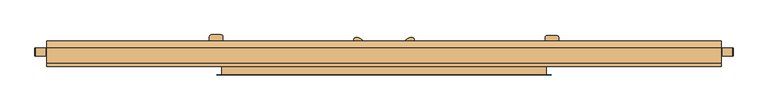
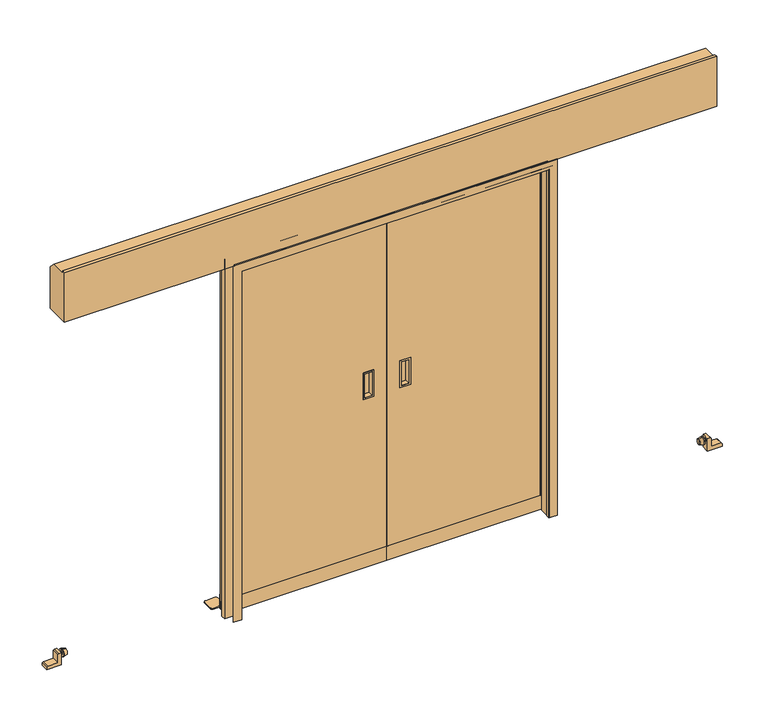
"""IFC4 building model written with IfcOpenShell, lengths in millimetres: door geometry, 冷蔵_両引きスライドドア_手動 : W1671xH2000xt50."""

from ifc_helpers import new_model, si_unit, point, frame, frame_2d, origin, origin_with_axes, place, context, project, spatial, polyline, circle_curve, trimmed, segment, composite_curve, outline, extrude, faceted_brep, source, transform, mapped, element, save
from ifc_brep_helpers import plane_surface, cylinder_surface, revolved_surface, advanced_brep


def door_920d7e31(model_context):
    return source(origin(), model_context, "Body", "SolidModel", [
        faceted_brep([(0.0, 108.5, 2040.0), (0.0, 64.5, 2040.0), (875.5, 64.5, 2040.0), (875.5, 108.5, 2040.0), (875.5, 64.5, 43.0), (830.5, 64.5, 43.0), (830.5, 58.5, 43.0), (0.0, 58.5, 43.0), (0.0, 108.5, 43.0), (875.5, 108.5, 43.0), (0.0, 64.5, 1995.0), (830.5, 64.5, 1995.0), (0.0, 58.5, 1995.0), (830.5, 58.5, 1995.0), (119.499965, 58.5, 1111.0), (119.499965, 58.5, 975.0), (79.499965, 58.5, 975.0), (79.499965, 58.5, 1111.0), (119.499965, 86.5, 1111.0), (79.499965, 86.5, 1111.0), (119.499965, 86.5, 975.0), (79.499965, 86.5, 975.0)], [[[0, 1, 2, 3]], [[4, 5, 6, 7, 8, 9]], [[3, 9, 8, 0]], [[2, 4, 9, 3]], [[1, 10, 11, 5, 4, 2]], [[0, 8, 7, 12, 10, 1]], [[11, 10, 12, 13]], [[13, 6, 5, 11]], [[12, 7, 6, 13], [14, 15, 16, 17]], [[18, 14, 17, 19]], [[18, 20, 15, 14]], [[20, 21, 16, 15]], [[17, 16, 21, 19]], [[19, 21, 20, 18]]]),
        extrude(outline(polyline([(1120.0, 70.499965), (966.0, 70.499965), (966.0, 128.499965), (1120.0, 128.499965), (1120.0, 70.499965)]), holes=[polyline([(975.0, 79.499965), (1111.0, 79.499965), (1111.0, 119.499965), (975.0, 119.499965), (975.0, 79.499965)])]), frame((0.0, 56.499995, 0.0), z_axis=(0.0, 1.0, 0.0), x_axis=(0.0, 0.0, 1.0)), (0.0, 0.0, 1.0), 2.000005),
        extrude(outline(polyline([(865.9985861, 49.0), (838.0014439, 49.0), (838.0014439, 64.5), (865.9985861, 64.5), (865.9985861, 49.0)])), frame((0.0, 0.0, 80.0000152), z_axis=(0.0, 0.0, 1.0), x_axis=(1.0, 0.0, 0.0)), (0.0, 0.0, 1.0), 1914.9999848),
        extrude(outline(polyline([(0.0, 64.5), (865.9985861, 64.5), (865.9985861, 49.0), (0.0, 49.0), (0.0, 64.5)])), frame((0.0, 0.0, 2002.5014439), z_axis=(0.0, 0.0, 1.0), x_axis=(1.0, 0.0, 0.0)), (0.0, 0.0, 1.0), 27.9971423),
        extrude(outline(polyline([(110.0, 80.0000152), (110.0, 4.5e-06), (100.0, 4.5e-06), (100.0, 43.0000033), (108.5, 42.9999967), (108.5, 80.0000152), (110.0, 80.0000152)])), frame((0.0, 0.0, 0.0), z_axis=(1.0, 0.0, 0.0), x_axis=(0.0, 1.0, 0.0)), (0.0, 0.0, 1.0), 875.5),
        extrude(outline(polyline([(57.0, 80.0000152), (58.5, 80.0000152), (58.5, 42.9999967), (67.0, 43.0000033), (67.0, 4.5e-06), (57.0, 4.5e-06), (57.0, 80.0000152)])), frame((0.0, 0.0, 0.0), z_axis=(1.0, 0.0, 0.0), x_axis=(0.0, 1.0, 0.0)), (0.0, 0.0, 1.0), 875.5),
        faceted_brep([(0.0, 108.5, 2040.0), (-875.5, 108.5, 2040.0), (-875.5, 64.5, 2040.0), (0.0, 64.5, 2040.0), (-875.5, 64.5, 43.0), (-875.5, 108.5, 43.0), (0.0, 108.5, 43.0), (0.0, 58.5, 43.0), (-830.5, 58.5, 43.0), (-830.5, 64.5, 43.0), (-830.5, 64.5, 1995.0), (0.0, 64.5, 1995.0), (0.0, 58.5, 1995.0), (-830.5, 58.5, 1995.0), (-119.499965, 58.5, 1111.0), (-79.499965, 58.5, 1111.0), (-79.499965, 58.5, 975.0), (-119.499965, 58.5, 975.0), (-119.499965, 86.5, 1111.0), (-79.499965, 86.5, 1111.0), (-119.499965, 86.5, 975.0), (-79.499965, 86.5, 975.0)], [[[0, 1, 2, 3]], [[4, 5, 6, 7, 8, 9]], [[1, 0, 6, 5]], [[2, 1, 5, 4]], [[3, 2, 4, 9, 10, 11]], [[0, 3, 11, 12, 7, 6]], [[10, 13, 12, 11]], [[13, 10, 9, 8]], [[12, 13, 8, 7], [14, 15, 16, 17]], [[18, 19, 15, 14]], [[18, 14, 17, 20]], [[20, 17, 16, 21]], [[15, 19, 21, 16]], [[19, 18, 20, 21]]]),
        extrude(outline(polyline([(1120.0, -70.499965), (1120.0, -128.499965), (966.0, -128.499965), (966.0, -70.499965), (1120.0, -70.499965)]), holes=[polyline([(975.0, -79.499965), (975.0, -119.499965), (1111.0, -119.499965), (1111.0, -79.499965), (975.0, -79.499965)])]), frame((0.0, 56.499995, 0.0), z_axis=(0.0, 1.0, 0.0), x_axis=(0.0, 0.0, 1.0)), (0.0, 0.0, 1.0), 2.000005),
        extrude(outline(polyline([(-865.9985861, 49.0), (-865.9985861, 64.5), (-838.0014439, 64.5), (-838.0014439, 49.0), (-865.9985861, 49.0)])), frame((0.0, 0.0, 80.0000152), z_axis=(0.0, 0.0, 1.0), x_axis=(1.0, 0.0, 0.0)), (0.0, 0.0, 1.0), 1914.9999848),
        extrude(outline(polyline([(0.0, 64.5), (0.0, 49.0), (-865.9985861, 49.0), (-865.9985861, 64.5), (0.0, 64.5)])), frame((0.0, 0.0, 2002.5014439), z_axis=(0.0, 0.0, 1.0), x_axis=(1.0, 0.0, 0.0)), (0.0, 0.0, 1.0), 27.9971423),
        extrude(outline(polyline([(110.0, 80.0000152), (110.0, 4.5e-06), (100.0, 4.5e-06), (100.0, 43.0000033), (108.5, 42.9999967), (108.5, 80.0000152), (110.0, 80.0000152)])), frame((-875.5, 0.0, 0.0), z_axis=(1.0, 0.0, 0.0), x_axis=(0.0, 1.0, 0.0)), (0.0, 0.0, 1.0), 875.5),
        extrude(outline(polyline([(57.0, 80.0000152), (58.5, 80.0000152), (58.5, 42.9999967), (67.0, 43.0000033), (67.0, 4.5e-06), (57.0, 4.5e-06), (57.0, 80.0000152)])), frame((-875.5, 0.0, 0.0), z_axis=(1.0, 0.0, 0.0), x_axis=(0.0, 1.0, 0.0)), (0.0, 0.0, 1.0), 875.5),
        extrude(outline(composite_curve([segment(trimmed(circle_curve(frame_2d((856.5036558, 176.0045151)), 10.0), [point((846.5036558, 176.0045151))], [point((856.5036558, 186.0045151))], False, "CARTESIAN"), True, "CONTINUOUS"), segment(polyline([(856.5036558, 186.0045151), (907.5044508, 186.0045151)]), True, "CONTINUOUS"), segment(trimmed(circle_curve(frame_2d((907.5044508, 176.0045151)), 10.0), [point((907.5044508, 186.0045151))], [point((917.5044508, 176.0045151))], False, "CARTESIAN"), True, "CONTINUOUS"), segment(polyline([(917.5044508, 176.0045151), (917.5044508, 125.0045151)]), True, "CONTINUOUS"), segment(trimmed(circle_curve(frame_2d((907.5044508, 125.0045151)), 10.0), [point((917.5044508, 125.0045151))], [point((907.5044508, 115.0045151))], False, "CARTESIAN"), True, "CONTINUOUS"), segment(polyline([(907.5044508, 115.0045151), (856.5036558, 115.0045151)]), True, "CONTINUOUS"), segment(trimmed(circle_curve(frame_2d((856.5036558, 125.0045151)), 10.0), [point((856.5036558, 115.0045151))], [point((846.5036558, 125.0045151))], False, "CARTESIAN"), True, "CONTINUOUS"), segment(polyline([(846.5036558, 125.0045151), (846.5036558, 176.0045151)]), True, "CONTINUOUS")], self_intersect=False)), origin_with_axes(), (0.0, 0.0, 1.0), 6.0),
        advanced_brep(
        [(1741.999995, 100.0, 32.99147), (1741.999995, 100.0, 72.98458), (1741.999995, 100.0, 60.988025), (1741.999995, 100.0, 44.988025), (1737.999995, 100.0, 32.99147), (1737.999995, 100.0, 72.98458), (1717.999995, 100.0, 37.9914727), (1717.999995, 100.0, 67.9845773), (1717.999995, 100.0, 52.988025), (1753.99999, 100.0, 44.988025), (1753.99999, 100.0, 60.988025), (1753.99999, 100.0, 52.988025)],
        [
            (0, 1, circle_curve(frame((1741.999995, 100.0, 52.988025), z_axis=(1.0, 0.0, 0.0), x_axis=(0.0, 0.0, 1.0)), 19.996555)),
            (1, 2),
            (2, 3, circle_curve(frame((1741.999995, 100.0, 52.988025), z_axis=(-1.0, 0.0, 0.0), x_axis=(0.0, 0.0, 1.0)), 8.0)),
            (3, 0),
            (1, 0, circle_curve(frame((1741.999995, 100.0, 52.988025), z_axis=(1.0, 0.0, 0.0), x_axis=(0.0, 0.0, 1.0)), 19.996555)),
            (3, 2, circle_curve(frame((1741.999995, 100.0, 52.988025), z_axis=(-1.0, 0.0, 0.0), x_axis=(0.0, 0.0, 1.0)), 8.0)),
            (4, 5, circle_curve(frame((1737.999995, 100.0, 52.988025), z_axis=(1.0, 0.0, 0.0), x_axis=(0.0, 0.0, 1.0)), 19.996555)),
            (5, 1),
            (0, 4),
            (5, 4, circle_curve(frame((1737.999995, 100.0, 52.988025), z_axis=(1.0, 0.0, 0.0), x_axis=(0.0, 0.0, 1.0)), 19.996555)),
            (6, 7, circle_curve(frame((1717.999995, 100.0, 52.988025), z_axis=(1.0, 0.0, 0.0), x_axis=(0.0, 0.0, 1.0)), 14.9965523)),
            (7, 5),
            (4, 6),
            (7, 6, circle_curve(frame((1717.999995, 100.0, 52.988025), z_axis=(1.0, 0.0, 0.0), x_axis=(0.0, 0.0, 1.0)), 14.9965523)),
            (8, 7),
            (6, 8),
            (9, 10, circle_curve(frame((1753.99999, 100.0, 52.988025), z_axis=(1.0, 0.0, 0.0), x_axis=(0.0, 0.0, 1.0)), 8.0)),
            (10, 11),
            (11, 9),
            (10, 9, circle_curve(frame((1753.99999, 100.0, 52.988025), z_axis=(1.0, 0.0, 0.0), x_axis=(0.0, 0.0, 1.0)), 8.0)),
            (2, 10),
            (9, 3),
        ],
        [
            plane_surface(frame((1741.999995, 100.0, 52.988025), z_axis=(1.0, 0.0, 0.0), x_axis=(0.0, 0.0, 1.0))),
            cylinder_surface(frame((1717.999995, 100.0, 52.988025), z_axis=(-1.0, 0.0, 0.0), x_axis=(0.0, 0.0, 1.0)), 19.996555),
            revolved_surface(polyline([(1737.999995, 100.0, 72.98458), (1717.999995, 100.0, 67.9845773)]), (1717.999995, 100.0, 52.988025), (-1.0, 0.0, 0.0)),
            plane_surface(frame((1717.999995, 100.0, 52.988025), z_axis=(-1.0, 0.0, 0.0), x_axis=(0.0, 0.0, 1.0))),
            plane_surface(frame((1753.99999, 100.0, 52.988025), z_axis=(1.0, 0.0, 0.0), x_axis=(0.0, 0.0, 1.0))),
            cylinder_surface(frame((1717.999995, 100.0, 52.988025), z_axis=(-1.0, 0.0, 0.0), x_axis=(0.0, 0.0, 1.0)), 8.0),
        ],
        [
            (0, [[1, 2, 3, 4]]),
            (0, [[5, -4, 6, -2]]),
            (1, [[7, 8, -1, 9]]),
            (1, [[10, -9, -5, -8]]),
            (2, [[11, 12, -7, 13]]),
            (2, [[14, -13, -10, -12]]),
            (3, [[15, -11, 16]]),
            (3, [[-16, -14, -15]]),
            (4, [[17, 18, 19]]),
            (4, [[20, -19, -18]]),
            (5, [[-3, 21, -17, 22]]),
            (5, [[-6, -22, -20, -21]]),
        ],
    ),
        extrude(outline(polyline([(0.000626, 1753.99999), (-0.00939, 1834.0), (14.99265, 1834.0), (19.99311, 1828.99999), (19.99062, 1774.0), (64.99725, 1774.0), (69.99771, 1768.99999), (69.99063, 1753.99999), (0.000626, 1753.99999)])), frame((0.0, 79.0, 0.0), z_axis=(0.0, 1.0, 0.0), x_axis=(0.0, 0.0, 1.0)), (0.0, 0.0, 1.0), 42.00225),
        advanced_brep(
        [(-1742.0, 100.0, 32.99147), (-1742.0, 100.0, 72.98458), (-1742.0, 100.0, 60.988025), (-1742.0, 100.0, 44.988025), (-1738.0, 100.0, 32.99147), (-1738.0, 100.0, 72.98458), (-1718.0, 100.0, 37.9914727), (-1718.0, 100.0, 67.9845773), (-1718.0, 100.0, 52.988025), (-1753.999995, 100.0, 44.988025), (-1753.999995, 100.0, 60.988025), (-1753.999995, 100.0, 52.988025)],
        [
            (0, 1, circle_curve(frame((-1742.0, 100.0, 52.988025), z_axis=(-1.0, 0.0, 0.0), x_axis=(0.0, 0.0, 1.0)), 19.996555)),
            (1, 2),
            (2, 3, circle_curve(frame((-1742.0, 100.0, 52.988025), z_axis=(1.0, 0.0, 0.0), x_axis=(0.0, 0.0, 1.0)), 8.0)),
            (3, 0),
            (1, 0, circle_curve(frame((-1742.0, 100.0, 52.988025), z_axis=(-1.0, 0.0, 0.0), x_axis=(0.0, 0.0, 1.0)), 19.996555)),
            (3, 2, circle_curve(frame((-1742.0, 100.0, 52.988025), z_axis=(1.0, 0.0, 0.0), x_axis=(0.0, 0.0, 1.0)), 8.0)),
            (4, 5, circle_curve(frame((-1738.0, 100.0, 52.988025), z_axis=(-1.0, 0.0, 0.0), x_axis=(0.0, 0.0, 1.0)), 19.996555)),
            (5, 1),
            (0, 4),
            (5, 4, circle_curve(frame((-1738.0, 100.0, 52.988025), z_axis=(-1.0, 0.0, 0.0), x_axis=(0.0, 0.0, 1.0)), 19.996555)),
            (6, 7, circle_curve(frame((-1718.0, 100.0, 52.988025), z_axis=(-1.0, 0.0, 0.0), x_axis=(0.0, 0.0, 1.0)), 14.9965523)),
            (7, 5),
            (4, 6),
            (7, 6, circle_curve(frame((-1718.0, 100.0, 52.988025), z_axis=(-1.0, 0.0, 0.0), x_axis=(0.0, 0.0, 1.0)), 14.9965523)),
            (8, 7),
            (6, 8),
            (9, 10, circle_curve(frame((-1753.999995, 100.0, 52.988025), z_axis=(-1.0, 0.0, 0.0), x_axis=(0.0, 0.0, 1.0)), 8.0)),
            (10, 11),
            (11, 9),
            (10, 9, circle_curve(frame((-1753.999995, 100.0, 52.988025), z_axis=(-1.0, 0.0, 0.0), x_axis=(0.0, 0.0, 1.0)), 8.0)),
            (2, 10),
            (9, 3),
        ],
        [
            plane_surface(frame((-1742.0, 100.0, 52.988025), z_axis=(-1.0, 0.0, 0.0), x_axis=(0.0, 0.0, 1.0))),
            cylinder_surface(frame((-1718.0, 100.0, 52.988025), z_axis=(1.0, 0.0, 0.0), x_axis=(0.0, 0.0, 1.0)), 19.996555),
            revolved_surface(polyline([(-1738.0, 100.0, 72.98458), (-1718.0, 100.0, 67.9845773)]), (-1718.0, 100.0, 52.988025), (1.0, 0.0, 0.0)),
            plane_surface(frame((-1718.0, 100.0, 52.988025), z_axis=(1.0, 0.0, 0.0), x_axis=(0.0, 0.0, 1.0))),
            plane_surface(frame((-1753.999995, 100.0, 52.988025), z_axis=(-1.0, 0.0, 0.0), x_axis=(0.0, 0.0, 1.0))),
            cylinder_surface(frame((-1718.0, 100.0, 52.988025), z_axis=(1.0, 0.0, 0.0), x_axis=(0.0, 0.0, 1.0)), 8.0),
        ],
        [
            (0, [[1, 2, 3, 4]]),
            (0, [[5, -4, 6, -2]]),
            (1, [[7, 8, -1, 9]]),
            (1, [[10, -9, -5, -8]]),
            (2, [[11, 12, -7, 13]]),
            (2, [[14, -13, -10, -12]]),
            (3, [[15, -11, 16]]),
            (3, [[-16, -14, -15]]),
            (4, [[17, 18, 19]]),
            (4, [[20, -19, -18]]),
            (5, [[-3, 21, -17, 22]]),
            (5, [[-6, -22, -20, -21]]),
        ],
    ),
        extrude(outline(polyline([(0.000626, -1753.999995), (69.99063, -1753.999995), (69.99771, -1768.999995), (64.99725, -1774.000005), (19.99062, -1774.000005), (19.99311, -1828.999995), (14.99265, -1834.000005), (-0.00939, -1834.000005), (0.000626, -1753.999995)])), frame((0.0, 78.99775, 0.0), z_axis=(0.0, 1.0, 0.0), x_axis=(0.0, 0.0, 1.0)), (0.0, 0.0, 1.0), 42.00225),
        extrude(outline(composite_curve([segment(polyline([(-846.5036558, 180.0045151), (-846.5036558, 129.0045151)]), True, "CONTINUOUS"), segment(trimmed(circle_curve(frame_2d((-856.5036558, 129.0045151)), 10.0), [point((-846.5036558, 129.0045151))], [point((-856.5036558, 119.0045151))], False, "CARTESIAN"), True, "CONTINUOUS"), segment(polyline([(-856.5036558, 119.0045151), (-907.5044508, 119.0045151)]), True, "CONTINUOUS"), segment(trimmed(circle_curve(frame_2d((-907.5044508, 129.0045151)), 10.0), [point((-907.5044508, 119.0045151))], [point((-917.5044508, 129.0045151))], False, "CARTESIAN"), True, "CONTINUOUS"), segment(polyline([(-917.5044508, 129.0045151), (-917.5044508, 180.0045151)]), True, "CONTINUOUS"), segment(trimmed(circle_curve(frame_2d((-907.5044508, 180.0045151)), 10.0), [point((-917.5044508, 180.0045151))], [point((-907.5044508, 190.0045151))], False, "CARTESIAN"), True, "CONTINUOUS"), segment(polyline([(-907.5044508, 190.0045151), (-856.5036558, 190.0045151)]), True, "CONTINUOUS"), segment(trimmed(circle_curve(frame_2d((-856.5036558, 180.0045151)), 10.0), [point((-856.5036558, 190.0045151))], [point((-846.5036558, 180.0045151))], False, "CARTESIAN"), True, "CONTINUOUS")], self_intersect=False)), origin_with_axes(), (0.0, 0.0, 1.0), 6.0),
        extrude(outline(polyline([(155.499875, 2246.500125), (155.499875, 2008.5), (22.0, 2008.5), (22.0, 2293.5), (38.499875, 2293.5), (38.499875, 2278.49995), (123.50005, 2278.49995), (155.499875, 2246.500125)])), frame((-1771.0, 0.0, 0.0), z_axis=(1.0, 0.0, 0.0), x_axis=(0.0, 1.0, 0.0)), (0.0, 0.0, 1.0), 3542.0),
        faceted_brep([(-835.5, -22.0, 0.0), (-851.50103, -22.0, 0.0), (-851.50103, 22.0, 0.0), (-900.5, 22.0, 0.0), (-900.5, 49.0, 0.0), (-835.5, 49.0, 0.0), (-835.5, -22.0, 2000.0), (835.5, -22.0, 2000.0), (835.5, -22.0, 0.0), (851.50103, -22.0, 0.0), (851.50103, -22.0, 2016.00103), (-851.50103, -22.0, 2016.00103), (-851.50103, 22.0, 2016.00103), (851.50103, 22.0, 2016.00103), (851.50103, 22.0, 0.0), (900.5, 22.0, 0.0), (900.5, 22.0, 2065.0), (-900.5, 22.0, 2065.0), (-900.5, 49.0, 2065.0), (900.5, 49.0, 2065.0), (900.5, 49.0, 0.0), (835.5, 49.0, 0.0), (835.5, 49.0, 2000.0), (-835.5, 49.0, 2000.0)], [[[0, 1, 2, 3, 4, 5]], [[1, 0, 6, 7, 8, 9, 10, 11]], [[2, 1, 11, 12]], [[3, 2, 12, 13, 14, 15, 16, 17]], [[4, 3, 17, 18]], [[5, 4, 18, 19, 20, 21, 22, 23]], [[0, 5, 23, 6]], [[7, 22, 21, 8]], [[8, 21, 20, 15, 14, 9]], [[13, 10, 9, 14]], [[19, 16, 15, 20]], [[12, 11, 10, 13]], [[18, 17, 16, 19]], [[6, 23, 22, 7]]]),
        faceted_brep([(-879.5, -23.2, 0.0), (-879.5, -22.0, 0.0), (-835.5, -22.0, 0.0), (-835.5, -1.2, 0.0), (-834.3, -1.2, 0.0), (-834.3, -23.2, 0.0), (-879.5, -23.2, 2044.0), (-879.5, -22.0, 2044.0), (879.5, -22.0, 2044.0), (879.5, -22.0, 0.0), (835.5, -22.0, 0.0), (835.5, -22.0, 2000.0), (-835.5, -22.0, 2000.0), (-835.5, -1.2, 2000.0), (835.5, -1.2, 2000.0), (835.5, -1.2, 0.0), (834.3, -1.2, 0.0), (834.3, -1.2, 1998.8), (-834.3, -1.2, 1998.8), (-834.3, -23.2, 1998.8), (834.3, -23.2, 1998.8), (834.3, -23.2, 0.0), (879.5, -23.2, 0.0), (879.5, -23.2, 2044.0)], [[[0, 1, 2, 3, 4, 5]], [[1, 0, 6, 7]], [[2, 1, 7, 8, 9, 10, 11, 12]], [[3, 2, 12, 13]], [[4, 3, 13, 14, 15, 16, 17, 18]], [[5, 4, 18, 19]], [[0, 5, 19, 20, 21, 22, 23, 6]], [[8, 23, 22, 9]], [[22, 21, 16, 15, 10, 9]], [[14, 11, 10, 15]], [[20, 17, 16, 21]], [[7, 6, 23, 8]], [[13, 12, 11, 14]], [[19, 18, 17, 20]]]),
        advanced_brep(
        [(134.7032987, 173.3571276, 850.0), (138.8239291, 174.499985, 850.0), (149.4294791, 174.499985, 850.0), (153.5501092, 173.3571279, 850.0), (153.5501098, 153.6428421, 850.0), (149.4294791, 152.499985, 850.0), (138.8239291, 152.499985, 850.0), (134.7032991, 153.6428421, 850.0), (134.7032987, 173.3571276, 1350.0), (138.8239291, 174.499985, 1350.0), (149.4294791, 174.499985, 1350.0), (153.5501092, 173.3571279, 1350.0), (153.5501098, 153.6428421, 1350.0), (149.4294791, 152.499985, 1350.0), (138.8239291, 152.499985, 1350.0), (134.7032991, 153.6428421, 1350.0)],
        [
            (0, 1, circle_curve(frame((138.8239291, 166.499985, 850.0), z_axis=(0.0, 0.0, -1.0), x_axis=(0.0, -1.0, 0.0)), 8.0)),
            (1, 2),
            (2, 3, circle_curve(frame((149.4294791, 166.499985, 850.0), z_axis=(0.0, 0.0, -1.0), x_axis=(0.0, -1.0, 0.0)), 8.0)),
            (3, 4, circle_curve(frame((147.6267041, 163.499985, 850.0), z_axis=(0.0, 0.0, -1.0), x_axis=(0.0, -1.0, 0.0)), 11.5)),
            (4, 5, circle_curve(frame((149.4294791, 160.499985, 850.0), z_axis=(0.0, 0.0, -1.0), x_axis=(0.0, -1.0, 0.0)), 8.0)),
            (5, 6),
            (6, 7, circle_curve(frame((138.8239291, 160.499985, 850.0), z_axis=(0.0, 0.0, -1.0), x_axis=(0.0, -1.0, 0.0)), 8.0)),
            (7, 0, circle_curve(frame((140.6267041, 163.499985, 850.0), z_axis=(0.0, 0.0, -1.0), x_axis=(0.0, -1.0, 0.0)), 11.5)),
            (8, 9, circle_curve(frame((138.8239291, 166.499985, 1350.0), z_axis=(0.0, 0.0, -1.0), x_axis=(0.0, -1.0, 0.0)), 8.0)),
            (9, 1),
            (0, 8),
            (9, 10),
            (10, 2),
            (10, 11, circle_curve(frame((149.4294791, 166.499985, 1350.0), z_axis=(0.0, 0.0, -1.0), x_axis=(0.0, -1.0, 0.0)), 8.0)),
            (11, 3),
            (11, 12, circle_curve(frame((147.6267041, 163.499985, 1350.0), z_axis=(0.0, 0.0, -1.0), x_axis=(0.0, -1.0, 0.0)), 11.5)),
            (12, 4),
            (12, 13, circle_curve(frame((149.4294791, 160.499985, 1350.0), z_axis=(0.0, 0.0, -1.0), x_axis=(0.0, -1.0, 0.0)), 8.0)),
            (13, 5),
            (13, 14),
            (14, 6),
            (14, 15, circle_curve(frame((138.8239291, 160.499985, 1350.0), z_axis=(0.0, 0.0, -1.0), x_axis=(0.0, -1.0, 0.0)), 8.0)),
            (15, 7),
            (15, 8, circle_curve(frame((140.6267041, 163.499985, 1350.0), z_axis=(0.0, 0.0, -1.0), x_axis=(0.0, -1.0, 0.0)), 11.5)),
        ],
        [
            plane_surface(frame((140.6267041, 151.999985, 850.0), z_axis=(0.0, 0.0, -1.0), x_axis=(-1.0, 0.0, 0.0))),
            cylinder_surface(frame((138.8239291, 166.499985, 850.0), z_axis=(0.0, 0.0, 1.0), x_axis=(0.0, -1.0, 0.0)), 8.0),
            plane_surface(frame((149.4294791, 174.499985, 1350.0), z_axis=(0.0, 1.0, 0.0), x_axis=(0.0, 0.0, -1.0))),
            cylinder_surface(frame((149.4294791, 166.499985, 850.0), z_axis=(0.0, 0.0, 1.0), x_axis=(0.0, -1.0, 0.0)), 8.0),
            cylinder_surface(frame((147.6267041, 163.499985, 850.0), z_axis=(0.0, 0.0, 1.0), x_axis=(0.0, -1.0, 0.0)), 11.5),
            cylinder_surface(frame((149.4294791, 160.499985, 850.0), z_axis=(0.0, 0.0, 1.0), x_axis=(0.0, -1.0, 0.0)), 8.0),
            plane_surface(frame((138.8239291, 152.499985, 1350.0), z_axis=(0.0, -1.0, 0.0), x_axis=(0.0, 0.0, -1.0))),
            cylinder_surface(frame((138.8239291, 160.499985, 850.0), z_axis=(0.0, 0.0, 1.0), x_axis=(0.0, -1.0, 0.0)), 8.0),
            cylinder_surface(frame((140.6267041, 163.499985, 850.0), z_axis=(0.0, 0.0, 1.0), x_axis=(0.0, -1.0, 0.0)), 11.5),
            plane_surface(frame((140.6267041, 151.999985, 1350.0), z_axis=(0.0, 0.0, 1.0), x_axis=(1.0, 0.0, 0.0))),
        ],
        [
            (0, [[1, 2, 3, 4, 5, 6, 7, 8]]),
            (1, [[9, 10, -1, 11]]),
            (2, [[12, 13, -2, -10]]),
            (3, [[14, 15, -3, -13]]),
            (4, [[16, 17, -4, -15]]),
            (5, [[18, 19, -5, -17]]),
            (6, [[20, 21, -6, -19]]),
            (7, [[22, 23, -7, -21]]),
            (8, [[24, -11, -8, -23]]),
            (9, [[-24, -22, -20, -18, -16, -14, -12, -9]]),
        ],
    ),
        advanced_brep(
        [(-134.7032985, 173.3571279, 850.0), (-134.703299, 153.6428419, 850.0), (-138.8239291, 152.499985, 850.0), (-149.4294791, 152.499985, 850.0), (-153.5501096, 153.6428424, 850.0), (-153.5501093, 173.3571281, 850.0), (-149.4294791, 174.499985, 850.0), (-138.8239291, 174.499985, 850.0), (-134.7032985, 173.3571279, 1350.0), (-134.703299, 153.6428419, 1350.0), (-138.8239291, 152.499985, 1350.0), (-149.4294791, 152.499985, 1350.0), (-153.5501096, 153.6428424, 1350.0), (-153.5501093, 173.3571281, 1350.0), (-149.4294791, 174.499985, 1350.0), (-138.8239291, 174.499985, 1350.0)],
        [
            (0, 1, circle_curve(frame((-140.6267041, 163.499985, 850.0), z_axis=(0.0, 0.0, -1.0), x_axis=(0.0, -1.0, 0.0)), 11.5)),
            (1, 2, circle_curve(frame((-138.8239291, 160.499985, 850.0), z_axis=(0.0, 0.0, -1.0), x_axis=(0.0, -1.0, 0.0)), 8.0)),
            (2, 3),
            (3, 4, circle_curve(frame((-149.4294791, 160.499985, 850.0), z_axis=(0.0, 0.0, -1.0), x_axis=(0.0, -1.0, 0.0)), 8.0)),
            (4, 5, circle_curve(frame((-147.6267041, 163.499985, 850.0), z_axis=(0.0, 0.0, -1.0), x_axis=(0.0, -1.0, 0.0)), 11.5)),
            (5, 6, circle_curve(frame((-149.4294791, 166.499985, 850.0), z_axis=(0.0, 0.0, -1.0), x_axis=(0.0, -1.0, 0.0)), 8.0)),
            (6, 7),
            (7, 0, circle_curve(frame((-138.8239291, 166.499985, 850.0), z_axis=(0.0, 0.0, -1.0), x_axis=(0.0, -1.0, 0.0)), 8.0)),
            (8, 9, circle_curve(frame((-140.6267041, 163.499985, 1350.0), z_axis=(0.0, 0.0, -1.0), x_axis=(0.0, -1.0, 0.0)), 11.5)),
            (9, 1),
            (0, 8),
            (9, 10, circle_curve(frame((-138.8239291, 160.499985, 1350.0), z_axis=(0.0, 0.0, -1.0), x_axis=(0.0, -1.0, 0.0)), 8.0)),
            (10, 2),
            (10, 11),
            (11, 3),
            (11, 12, circle_curve(frame((-149.4294791, 160.499985, 1350.0), z_axis=(0.0, 0.0, -1.0), x_axis=(0.0, -1.0, 0.0)), 8.0)),
            (12, 4),
            (12, 13, circle_curve(frame((-147.6267041, 163.499985, 1350.0), z_axis=(0.0, 0.0, -1.0), x_axis=(0.0, -1.0, 0.0)), 11.5)),
            (13, 5),
            (13, 14, circle_curve(frame((-149.4294791, 166.499985, 1350.0), z_axis=(0.0, 0.0, -1.0), x_axis=(0.0, -1.0, 0.0)), 8.0)),
            (14, 6),
            (14, 15),
            (15, 7),
            (15, 8, circle_curve(frame((-138.8239291, 166.499985, 1350.0), z_axis=(0.0, 0.0, -1.0), x_axis=(0.0, -1.0, 0.0)), 8.0)),
        ],
        [
            plane_surface(frame((-138.8239291, 158.499985, 850.0), z_axis=(0.0, 0.0, -1.0), x_axis=(-1.0, 0.0, 0.0))),
            cylinder_surface(frame((-140.6267041, 163.499985, 850.0), z_axis=(0.0, 0.0, 1.0), x_axis=(0.0, -1.0, 0.0)), 11.5),
            cylinder_surface(frame((-138.8239291, 160.499985, 850.0), z_axis=(0.0, 0.0, 1.0), x_axis=(0.0, -1.0, 0.0)), 8.0),
            plane_surface(frame((-149.4294791, 152.499985, 1350.0), z_axis=(0.0, -1.0, 0.0), x_axis=(0.0, 0.0, -1.0))),
            cylinder_surface(frame((-149.4294791, 160.499985, 850.0), z_axis=(0.0, 0.0, 1.0), x_axis=(0.0, -1.0, 0.0)), 8.0),
            cylinder_surface(frame((-147.6267041, 163.499985, 850.0), z_axis=(0.0, 0.0, 1.0), x_axis=(0.0, -1.0, 0.0)), 11.5),
            cylinder_surface(frame((-149.4294791, 166.499985, 850.0), z_axis=(0.0, 0.0, 1.0), x_axis=(0.0, -1.0, 0.0)), 8.0),
            plane_surface(frame((-138.8239291, 174.499985, 1350.0), z_axis=(0.0, 1.0, 0.0), x_axis=(0.0, 0.0, -1.0))),
            cylinder_surface(frame((-138.8239291, 166.499985, 850.0), z_axis=(0.0, 0.0, 1.0), x_axis=(0.0, -1.0, 0.0)), 8.0),
            plane_surface(frame((-138.8239291, 158.499985, 1350.0), z_axis=(0.0, 0.0, 1.0), x_axis=(1.0, 0.0, 0.0))),
        ],
        [
            (0, [[1, 2, 3, 4, 5, 6, 7, 8]]),
            (1, [[9, 10, -1, 11]]),
            (2, [[12, 13, -2, -10]]),
            (3, [[14, 15, -3, -13]]),
            (4, [[16, 17, -4, -15]]),
            (5, [[18, 19, -5, -17]]),
            (6, [[20, 21, -6, -19]]),
            (7, [[22, 23, -7, -21]]),
            (8, [[24, -11, -8, -23]]),
            (9, [[-24, -22, -20, -18, -16, -14, -12, -9]]),
        ],
    ),
        advanced_brep(
        [(149.4294791, 174.499985, 830.0), (153.5501092, 173.3571279, 830.0), (153.5501098, 153.6428421, 830.0), (149.4294791, 152.499985, 830.0), (145.3110659, 152.499985, 830.0), (134.7267041, 128.0779954, 830.0), (134.7267041, 108.5, 830.0), (91.9244023, 108.5, 830.0), (91.9244023, 120.5176673, 830.0), (93.3186358, 129.5570327, 830.0), (136.341566, 174.322439, 830.0), (137.3583028, 174.499985, 830.0), (149.4294791, 174.499985, 850.0), (137.3583028, 174.499985, 850.0), (136.341566, 174.322439, 850.0), (93.3186358, 129.5570327, 850.0), (91.9244023, 120.5176673, 850.0), (91.9244023, 108.5, 850.0), (134.7267041, 108.5, 850.0), (134.7267041, 128.0779954, 850.0), (145.3110659, 152.499985, 850.0), (149.4294791, 152.499985, 850.0), (153.5501096, 153.6428424, 850.0), (153.5501093, 173.3571281, 850.0)],
        [
            (0, 1, circle_curve(frame((149.4294791, 166.499985, 830.0), z_axis=(0.0, 0.0, -1.0), x_axis=(0.0, -1.0, 0.0)), 8.0)),
            (1, 2, circle_curve(frame((147.6267041, 163.499985, 830.0), z_axis=(0.0, 0.0, -1.0), x_axis=(0.0, -1.0, 0.0)), 11.5)),
            (2, 3, circle_curve(frame((149.4294791, 160.499985, 830.0), z_axis=(0.0, 0.0, -1.0), x_axis=(0.0, -1.0, 0.0)), 8.0)),
            (3, 4),
            (4, 5, circle_curve(frame((168.1941114, 128.0779954, 830.0), z_axis=(0.0, 0.0, 1.0), x_axis=(0.0, -1.0, 0.0)), 33.4674072)),
            (5, 6),
            (6, 7),
            (7, 8),
            (8, 9, circle_curve(frame((121.9244023, 120.5176673, 830.0), z_axis=(0.0, 0.0, -1.0), x_axis=(0.0, -1.0, 0.0)), 30.0)),
            (9, 10, circle_curve(frame((160.0654241, 108.46518, 830.0), z_axis=(0.0, 0.0, -1.0), x_axis=(0.0, -1.0, 0.0)), 70.0)),
            (10, 11, circle_curve(frame((137.3583028, 171.499985, 830.0), z_axis=(0.0, 0.0, -1.0), x_axis=(0.0, -1.0, 0.0)), 3.0)),
            (11, 0),
            (12, 13),
            (13, 14, circle_curve(frame((137.3583028, 171.499985, 850.0), z_axis=(0.0, 0.0, 1.0), x_axis=(0.0, -1.0, 0.0)), 3.0)),
            (14, 15, circle_curve(frame((160.0654241, 108.46518, 850.0), z_axis=(0.0, 0.0, 1.0), x_axis=(0.0, -1.0, 0.0)), 70.0)),
            (15, 16, circle_curve(frame((121.9244023, 120.5176673, 850.0), z_axis=(0.0, 0.0, 1.0), x_axis=(0.0, -1.0, 0.0)), 30.0)),
            (16, 17),
            (17, 18),
            (18, 19),
            (19, 20, circle_curve(frame((168.1941114, 128.0779954, 850.0), z_axis=(0.0, 0.0, -1.0), x_axis=(0.0, -1.0, 0.0)), 33.4674072)),
            (20, 21),
            (21, 22, circle_curve(frame((149.4294791, 160.499985, 850.0), z_axis=(0.0, 0.0, 1.0), x_axis=(0.0, -1.0, 0.0)), 8.0)),
            (22, 23, circle_curve(frame((147.6267041, 163.499985, 850.0), z_axis=(0.0, 0.0, 1.0), x_axis=(0.0, -1.0, 0.0)), 11.5)),
            (23, 12, circle_curve(frame((149.4294791, 166.499985, 850.0), z_axis=(0.0, 0.0, 1.0), x_axis=(0.0, -1.0, 0.0)), 8.0)),
            (12, 0),
            (11, 13),
            (23, 1),
            (22, 2),
            (21, 3),
            (20, 4),
            (18, 6),
            (5, 19),
            (17, 7),
            (16, 8),
            (15, 9),
            (14, 10),
        ],
        [
            plane_surface(frame((137.3583028, 174.499985, 830.0), z_axis=(0.0, 0.0, -1.0), x_axis=(1.0, 0.0, 0.0))),
            plane_surface(frame((137.3583028, 174.499985, 850.0), z_axis=(0.0, 0.0, 1.0), x_axis=(-1.0, 0.0, 0.0))),
            plane_surface(frame((149.4294791, 174.499985, 850.0), z_axis=(0.0, 1.0, 0.0), x_axis=(0.0, 0.0, -1.0))),
            cylinder_surface(frame((149.4294791, 166.499985, 830.0), z_axis=(0.0, 0.0, 1.0), x_axis=(0.0, -1.0, 0.0)), 8.0),
            cylinder_surface(frame((147.6267041, 163.499985, 830.0), z_axis=(0.0, 0.0, 1.0), x_axis=(0.0, -1.0, 0.0)), 11.5),
            cylinder_surface(frame((149.4294791, 160.499985, 830.0), z_axis=(0.0, 0.0, 1.0), x_axis=(0.0, -1.0, 0.0)), 8.0),
            plane_surface(frame((145.3110659, 152.499985, 850.0), z_axis=(0.0, -1.0, 0.0), x_axis=(0.0, 0.0, -1.0))),
            plane_surface(frame((134.7267041, 108.5, 850.0), z_axis=(1.0, 0.0, 0.0), x_axis=(0.0, 0.0, -1.0))),
            plane_surface(frame((91.9244023, 108.5, 850.0), z_axis=(0.0, -1.0, 0.0), x_axis=(0.0, 0.0, -1.0))),
            plane_surface(frame((91.9244023, 120.5176673, 850.0), z_axis=(-1.0, 0.0, 0.0), x_axis=(0.0, 0.0, -1.0))),
            cylinder_surface(frame((121.9244023, 120.5176673, 830.0), z_axis=(0.0, 0.0, 1.0), x_axis=(0.0, -1.0, 0.0)), 30.0),
            cylinder_surface(frame((160.0654241, 108.46518, 830.0), z_axis=(0.0, 0.0, 1.0), x_axis=(0.0, -1.0, 0.0)), 70.0),
            cylinder_surface(frame((137.3583028, 171.499985, 830.0), z_axis=(0.0, 0.0, 1.0), x_axis=(0.0, -1.0, 0.0)), 3.0),
            revolved_surface(polyline([(168.1941114, 94.6105882, 830.0), (168.1941114, 94.6105882, 850.0)]), (168.1941114, 128.0779954, 830.0), (0.0, 0.0, -1.0)),
        ],
        [
            (0, [[1, 2, 3, 4, 5, 6, 7, 8, 9, 10, 11, 12]]),
            (1, [[13, 14, 15, 16, 17, 18, 19, 20, 21, 22, 23, 24]]),
            (2, [[-13, 25, -12, 26]]),
            (3, [[-24, 27, -1, -25]]),
            (4, [[-23, 28, -2, -27]]),
            (5, [[-22, 29, -3, -28]]),
            (6, [[-21, 30, -4, -29]]),
            (7, [[-19, 31, -6, 32]]),
            (8, [[-18, 33, -7, -31]]),
            (9, [[-17, 34, -8, -33]]),
            (10, [[-16, 35, -9, -34]]),
            (11, [[-15, 36, -10, -35]]),
            (12, [[-14, -26, -11, -36]]),
            (13, [[-20, -32, -5, -30]]),
        ],
    ),
        advanced_brep(
        [(149.4294791, 174.499985, 1370.0), (137.3583028, 174.499985, 1370.0), (136.341566, 174.322439, 1370.0), (93.3186358, 129.5570327, 1370.0), (91.9244023, 120.5176673, 1370.0), (91.9244023, 108.5, 1370.0), (134.7267041, 108.5, 1370.0), (134.7267041, 128.0779954, 1370.0), (145.3110659, 152.499985, 1370.0), (149.4294791, 152.499985, 1370.0), (153.5501096, 153.6428424, 1370.0), (153.5501093, 173.3571281, 1370.0), (149.4294791, 174.499985, 1349.99999), (153.5501092, 173.3571279, 1349.99999), (153.5501098, 153.6428421, 1349.99999), (149.4294791, 152.499985, 1349.99999), (145.3110659, 152.499985, 1349.99999), (134.7267041, 128.0779954, 1349.99999), (134.7267041, 108.5, 1349.99999), (91.9244023, 108.5, 1349.99999), (91.9244023, 120.5176673, 1349.99999), (93.3186358, 129.5570327, 1349.99999), (136.341566, 174.322439, 1349.99999), (137.3583028, 174.499985, 1349.99999)],
        [
            (0, 1),
            (1, 2, circle_curve(frame((137.3583028, 171.499985, 1370.0), z_axis=(0.0, 0.0, 1.0), x_axis=(0.0, -1.0, 0.0)), 3.0)),
            (2, 3, circle_curve(frame((160.0654241, 108.46518, 1370.0), z_axis=(0.0, 0.0, 1.0), x_axis=(0.0, -1.0, 0.0)), 70.0)),
            (3, 4, circle_curve(frame((121.9244023, 120.5176673, 1370.0), z_axis=(0.0, 0.0, 1.0), x_axis=(0.0, -1.0, 0.0)), 30.0)),
            (4, 5),
            (5, 6),
            (6, 7),
            (7, 8, circle_curve(frame((168.1941114, 128.0779954, 1370.0), z_axis=(0.0, 0.0, -1.0), x_axis=(0.0, -1.0, 0.0)), 33.4674072)),
            (8, 9),
            (9, 10, circle_curve(frame((149.4294791, 160.499985, 1370.0), z_axis=(0.0, 0.0, 1.0), x_axis=(0.0, -1.0, 0.0)), 8.0)),
            (10, 11, circle_curve(frame((147.6267041, 163.499985, 1370.0), z_axis=(0.0, 0.0, 1.0), x_axis=(0.0, -1.0, 0.0)), 11.5)),
            (11, 0, circle_curve(frame((149.4294791, 166.499985, 1370.0), z_axis=(0.0, 0.0, 1.0), x_axis=(0.0, -1.0, 0.0)), 8.0)),
            (12, 13, circle_curve(frame((149.4294791, 166.499985, 1349.99999), z_axis=(0.0, 0.0, -1.0), x_axis=(0.0, -1.0, 0.0)), 8.0)),
            (13, 14, circle_curve(frame((147.6267041, 163.499985, 1349.99999), z_axis=(0.0, 0.0, -1.0), x_axis=(0.0, -1.0, 0.0)), 11.5)),
            (14, 15, circle_curve(frame((149.4294791, 160.499985, 1349.99999), z_axis=(0.0, 0.0, -1.0), x_axis=(0.0, -1.0, 0.0)), 8.0)),
            (15, 16),
            (16, 17, circle_curve(frame((168.1941114, 128.0779954, 1349.99999), z_axis=(0.0, 0.0, 1.0), x_axis=(0.0, -1.0, 0.0)), 33.4674072)),
            (17, 18),
            (18, 19),
            (19, 20),
            (20, 21, circle_curve(frame((121.9244023, 120.5176673, 1349.99999), z_axis=(0.0, 0.0, -1.0), x_axis=(0.0, -1.0, 0.0)), 30.0)),
            (21, 22, circle_curve(frame((160.0654241, 108.46518, 1349.99999), z_axis=(0.0, 0.0, -1.0), x_axis=(0.0, -1.0, 0.0)), 70.0)),
            (22, 23, circle_curve(frame((137.3583028, 171.499985, 1349.99999), z_axis=(0.0, 0.0, -1.0), x_axis=(0.0, -1.0, 0.0)), 3.0)),
            (23, 12),
            (0, 12),
            (23, 1),
            (11, 13),
            (10, 14),
            (9, 15),
            (8, 16),
            (6, 18),
            (17, 7),
            (5, 19),
            (4, 20),
            (3, 21),
            (2, 22),
        ],
        [
            plane_surface(frame((137.3583028, 174.499985, 1370.0), z_axis=(0.0, 0.0, 1.0), x_axis=(-1.0, 0.0, 0.0))),
            plane_surface(frame((137.3583028, 174.499985, 1349.99999), z_axis=(0.0, 0.0, -1.0), x_axis=(1.0, 0.0, 0.0))),
            plane_surface(frame((149.4294791, 174.499985, 1370.0), z_axis=(0.0, 1.0, 0.0), x_axis=(0.0, 0.0, -1.0))),
            cylinder_surface(frame((149.4294791, 166.499985, 1349.99999), z_axis=(0.0, 0.0, 1.0), x_axis=(0.0, -1.0, 0.0)), 8.0),
            cylinder_surface(frame((147.6267041, 163.499985, 1349.99999), z_axis=(0.0, 0.0, 1.0), x_axis=(0.0, -1.0, 0.0)), 11.5),
            cylinder_surface(frame((149.4294791, 160.499985, 1349.99999), z_axis=(0.0, 0.0, 1.0), x_axis=(0.0, -1.0, 0.0)), 8.0),
            plane_surface(frame((145.3110659, 152.499985, 1370.0), z_axis=(0.0, -1.0, 0.0), x_axis=(0.0, 0.0, -1.0))),
            plane_surface(frame((134.7267041, 108.5, 1370.0), z_axis=(1.0, 0.0, 0.0), x_axis=(0.0, 0.0, -1.0))),
            plane_surface(frame((91.9244023, 108.5, 1370.0), z_axis=(0.0, -1.0, 0.0), x_axis=(0.0, 0.0, -1.0))),
            plane_surface(frame((91.9244023, 120.5176673, 1370.0), z_axis=(-1.0, 0.0, 0.0), x_axis=(0.0, 0.0, -1.0))),
            cylinder_surface(frame((121.9244023, 120.5176673, 1349.99999), z_axis=(0.0, 0.0, 1.0), x_axis=(0.0, -1.0, 0.0)), 30.0),
            cylinder_surface(frame((160.0654241, 108.46518, 1349.99999), z_axis=(0.0, 0.0, 1.0), x_axis=(0.0, -1.0, 0.0)), 70.0),
            cylinder_surface(frame((137.3583028, 171.499985, 1349.99999), z_axis=(0.0, 0.0, 1.0), x_axis=(0.0, -1.0, 0.0)), 3.0),
            revolved_surface(polyline([(168.1941114, 94.6105882, 1349.99999), (168.1941114, 94.6105882, 1370.0)]), (168.1941114, 128.0779954, 1349.99999), (0.0, 0.0, -1.0)),
        ],
        [
            (0, [[1, 2, 3, 4, 5, 6, 7, 8, 9, 10, 11, 12]]),
            (1, [[13, 14, 15, 16, 17, 18, 19, 20, 21, 22, 23, 24]]),
            (2, [[-1, 25, -24, 26]]),
            (3, [[-12, 27, -13, -25]]),
            (4, [[-11, 28, -14, -27]]),
            (5, [[-10, 29, -15, -28]]),
            (6, [[-9, 30, -16, -29]]),
            (7, [[-7, 31, -18, 32]]),
            (8, [[-6, 33, -19, -31]]),
            (9, [[-5, 34, -20, -33]]),
            (10, [[-4, 35, -21, -34]]),
            (11, [[-3, 36, -22, -35]]),
            (12, [[-2, -26, -23, -36]]),
            (13, [[-8, -32, -17, -30]]),
        ],
    ),
        advanced_brep(
        [(-149.4294791, 174.499985, 830.0), (-137.3583028, 174.499985, 830.0), (-136.341566, 174.322439, 830.0), (-93.3186358, 129.5570327, 830.0), (-91.9244023, 120.5176673, 830.0), (-91.9244023, 108.5, 830.0), (-134.7267041, 108.5, 830.0), (-134.7267041, 128.0779954, 830.0), (-145.3110659, 152.499985, 830.0), (-149.4294791, 152.499985, 830.0), (-153.5501096, 153.6428424, 830.0), (-153.5501093, 173.3571281, 830.0), (-149.4294791, 174.499985, 850.0), (-153.5501092, 173.3571279, 850.0), (-153.5501098, 153.6428421, 850.0), (-149.4294791, 152.499985, 850.0), (-145.3110659, 152.499985, 850.0), (-134.7267041, 128.0779954, 850.0), (-134.7267041, 108.5, 850.0), (-91.9244023, 108.5, 850.0), (-91.9244023, 120.5176673, 850.0), (-93.3186358, 129.5570327, 850.0), (-136.341566, 174.322439, 850.0), (-137.3583028, 174.499985, 850.0)],
        [
            (0, 1),
            (1, 2, circle_curve(frame((-137.3583028, 171.499985, 830.0), z_axis=(0.0, 0.0, -1.0), x_axis=(0.0, -1.0, 0.0)), 3.0)),
            (2, 3, circle_curve(frame((-160.0654241, 108.46518, 830.0), z_axis=(0.0, 0.0, -1.0), x_axis=(0.0, -1.0, 0.0)), 70.0)),
            (3, 4, circle_curve(frame((-121.9244023, 120.5176673, 830.0), z_axis=(0.0, 0.0, -1.0), x_axis=(0.0, -1.0, 0.0)), 30.0)),
            (4, 5),
            (5, 6),
            (6, 7),
            (7, 8, circle_curve(frame((-168.1941114, 128.0779954, 830.0), z_axis=(0.0, 0.0, 1.0), x_axis=(0.0, -1.0, 0.0)), 33.4674072)),
            (8, 9),
            (9, 10, circle_curve(frame((-149.4294791, 160.499985, 830.0), z_axis=(0.0, 0.0, -1.0), x_axis=(0.0, -1.0, 0.0)), 8.0)),
            (10, 11, circle_curve(frame((-147.6267041, 163.499985, 830.0), z_axis=(0.0, 0.0, -1.0), x_axis=(0.0, -1.0, 0.0)), 11.5)),
            (11, 0, circle_curve(frame((-149.4294791, 166.499985, 830.0), z_axis=(0.0, 0.0, -1.0), x_axis=(0.0, -1.0, 0.0)), 8.0)),
            (12, 13, circle_curve(frame((-149.4294791, 166.499985, 850.0), z_axis=(0.0, 0.0, 1.0), x_axis=(0.0, -1.0, 0.0)), 8.0)),
            (13, 14, circle_curve(frame((-147.6267041, 163.499985, 850.0), z_axis=(0.0, 0.0, 1.0), x_axis=(0.0, -1.0, 0.0)), 11.5)),
            (14, 15, circle_curve(frame((-149.4294791, 160.499985, 850.0), z_axis=(0.0, 0.0, 1.0), x_axis=(0.0, -1.0, 0.0)), 8.0)),
            (15, 16),
            (16, 17, circle_curve(frame((-168.1941114, 128.0779954, 850.0), z_axis=(0.0, 0.0, -1.0), x_axis=(0.0, -1.0, 0.0)), 33.4674072)),
            (17, 18),
            (18, 19),
            (19, 20),
            (20, 21, circle_curve(frame((-121.9244023, 120.5176673, 850.0), z_axis=(0.0, 0.0, 1.0), x_axis=(0.0, -1.0, 0.0)), 30.0)),
            (21, 22, circle_curve(frame((-160.0654241, 108.46518, 850.0), z_axis=(0.0, 0.0, 1.0), x_axis=(0.0, -1.0, 0.0)), 70.0)),
            (22, 23, circle_curve(frame((-137.3583028, 171.499985, 850.0), z_axis=(0.0, 0.0, 1.0), x_axis=(0.0, -1.0, 0.0)), 3.0)),
            (23, 12),
            (23, 1),
            (0, 12),
            (11, 13),
            (10, 14),
            (9, 15),
            (8, 16),
            (17, 7),
            (6, 18),
            (5, 19),
            (4, 20),
            (3, 21),
            (2, 22),
        ],
        [
            plane_surface(frame((-149.4294791, 158.499985, 830.0), z_axis=(0.0, 0.0, -1.0), x_axis=(-1.0, 0.0, 0.0))),
            plane_surface(frame((-149.4294791, 158.499985, 850.0), z_axis=(0.0, 0.0, 1.0), x_axis=(1.0, 0.0, 0.0))),
            plane_surface(frame((-137.3583028, 174.499985, 850.0), z_axis=(0.0, 1.0, 0.0), x_axis=(0.0, 0.0, -1.0))),
            cylinder_surface(frame((-149.4294791, 166.499985, 830.0), z_axis=(0.0, 0.0, 1.0), x_axis=(0.0, -1.0, 0.0)), 8.0),
            cylinder_surface(frame((-147.6267041, 163.499985, 830.0), z_axis=(0.0, 0.0, 1.0), x_axis=(0.0, -1.0, 0.0)), 11.5),
            cylinder_surface(frame((-149.4294791, 160.499985, 830.0), z_axis=(0.0, 0.0, 1.0), x_axis=(0.0, -1.0, 0.0)), 8.0),
            plane_surface(frame((-149.4294791, 152.499985, 850.0), z_axis=(0.0, -1.0, 0.0), x_axis=(0.0, 0.0, -1.0))),
            plane_surface(frame((-134.7267041, 128.0779954, 850.0), z_axis=(-1.0, 0.0, 0.0), x_axis=(0.0, 0.0, -1.0))),
            plane_surface(frame((-134.7267041, 108.5, 850.0), z_axis=(0.0, -1.0, 0.0), x_axis=(0.0, 0.0, -1.0))),
            plane_surface(frame((-91.9244023, 108.5, 850.0), z_axis=(1.0, 0.0, 0.0), x_axis=(0.0, 0.0, -1.0))),
            cylinder_surface(frame((-121.9244023, 120.5176673, 830.0), z_axis=(0.0, 0.0, 1.0), x_axis=(0.0, -1.0, 0.0)), 30.0),
            cylinder_surface(frame((-160.0654241, 108.46518, 830.0), z_axis=(0.0, 0.0, 1.0), x_axis=(0.0, -1.0, 0.0)), 70.0),
            cylinder_surface(frame((-137.3583028, 171.499985, 830.0), z_axis=(0.0, 0.0, 1.0), x_axis=(0.0, -1.0, 0.0)), 3.0),
            revolved_surface(polyline([(-168.1941114, 94.6105882, 830.0), (-168.1941114, 94.6105882, 850.0)]), (-168.1941114, 128.0779954, 830.0), (0.0, 0.0, -1.0)),
        ],
        [
            (0, [[1, 2, 3, 4, 5, 6, 7, 8, 9, 10, 11, 12]]),
            (1, [[13, 14, 15, 16, 17, 18, 19, 20, 21, 22, 23, 24]]),
            (2, [[-24, 25, -1, 26]]),
            (3, [[-13, -26, -12, 27]]),
            (4, [[-14, -27, -11, 28]]),
            (5, [[-15, -28, -10, 29]]),
            (6, [[-16, -29, -9, 30]]),
            (7, [[-18, 31, -7, 32]]),
            (8, [[-19, -32, -6, 33]]),
            (9, [[-20, -33, -5, 34]]),
            (10, [[-21, -34, -4, 35]]),
            (11, [[-22, -35, -3, 36]]),
            (12, [[-23, -36, -2, -25]]),
            (13, [[-17, -30, -8, -31]]),
        ],
    ),
        advanced_brep(
        [(-149.4294791, 174.499985, 1370.0), (-153.5501092, 173.3571279, 1370.0), (-153.5501098, 153.6428421, 1370.0), (-149.4294791, 152.499985, 1370.0), (-145.3110659, 152.499985, 1370.0), (-134.7267041, 128.0779954, 1370.0), (-134.7267041, 108.5, 1370.0), (-91.9244023, 108.5, 1370.0), (-91.9244023, 120.5176673, 1370.0), (-93.3186358, 129.5570327, 1370.0), (-136.341566, 174.322439, 1370.0), (-137.3583028, 174.499985, 1370.0), (-149.4294791, 174.499985, 1349.99999), (-137.3583028, 174.499985, 1349.99999), (-136.341566, 174.322439, 1349.99999), (-93.3186358, 129.5570327, 1349.99999), (-91.9244023, 120.5176673, 1349.99999), (-91.9244023, 108.5, 1349.99999), (-134.7267041, 108.5, 1349.99999), (-134.7267041, 128.0779954, 1349.99999), (-145.3110659, 152.499985, 1349.99999), (-149.4294791, 152.499985, 1349.99999), (-153.5501096, 153.6428424, 1349.99999), (-153.5501093, 173.3571281, 1349.99999)],
        [
            (0, 1, circle_curve(frame((-149.4294791, 166.499985, 1370.0), z_axis=(0.0, 0.0, 1.0), x_axis=(0.0, -1.0, 0.0)), 8.0)),
            (1, 2, circle_curve(frame((-147.6267041, 163.499985, 1370.0), z_axis=(0.0, 0.0, 1.0), x_axis=(0.0, -1.0, 0.0)), 11.5)),
            (2, 3, circle_curve(frame((-149.4294791, 160.499985, 1370.0), z_axis=(0.0, 0.0, 1.0), x_axis=(0.0, -1.0, 0.0)), 8.0)),
            (3, 4),
            (4, 5, circle_curve(frame((-168.1941114, 128.0779954, 1370.0), z_axis=(0.0, 0.0, -1.0), x_axis=(0.0, -1.0, 0.0)), 33.4674072)),
            (5, 6),
            (6, 7),
            (7, 8),
            (8, 9, circle_curve(frame((-121.9244023, 120.5176673, 1370.0), z_axis=(0.0, 0.0, 1.0), x_axis=(0.0, -1.0, 0.0)), 30.0)),
            (9, 10, circle_curve(frame((-160.0654241, 108.46518, 1370.0), z_axis=(0.0, 0.0, 1.0), x_axis=(0.0, -1.0, 0.0)), 70.0)),
            (10, 11, circle_curve(frame((-137.3583028, 171.499985, 1370.0), z_axis=(0.0, 0.0, 1.0), x_axis=(0.0, -1.0, 0.0)), 3.0)),
            (11, 0),
            (12, 13),
            (13, 14, circle_curve(frame((-137.3583028, 171.499985, 1349.99999), z_axis=(0.0, 0.0, -1.0), x_axis=(0.0, -1.0, 0.0)), 3.0)),
            (14, 15, circle_curve(frame((-160.0654241, 108.46518, 1349.99999), z_axis=(0.0, 0.0, -1.0), x_axis=(0.0, -1.0, 0.0)), 70.0)),
            (15, 16, circle_curve(frame((-121.9244023, 120.5176673, 1349.99999), z_axis=(0.0, 0.0, -1.0), x_axis=(0.0, -1.0, 0.0)), 30.0)),
            (16, 17),
            (17, 18),
            (18, 19),
            (19, 20, circle_curve(frame((-168.1941114, 128.0779954, 1349.99999), z_axis=(0.0, 0.0, 1.0), x_axis=(0.0, -1.0, 0.0)), 33.4674072)),
            (20, 21),
            (21, 22, circle_curve(frame((-149.4294791, 160.499985, 1349.99999), z_axis=(0.0, 0.0, -1.0), x_axis=(0.0, -1.0, 0.0)), 8.0)),
            (22, 23, circle_curve(frame((-147.6267041, 163.499985, 1349.99999), z_axis=(0.0, 0.0, -1.0), x_axis=(0.0, -1.0, 0.0)), 11.5)),
            (23, 12, circle_curve(frame((-149.4294791, 166.499985, 1349.99999), z_axis=(0.0, 0.0, -1.0), x_axis=(0.0, -1.0, 0.0)), 8.0)),
            (11, 13),
            (12, 0),
            (23, 1),
            (22, 2),
            (21, 3),
            (20, 4),
            (5, 19),
            (18, 6),
            (17, 7),
            (16, 8),
            (15, 9),
            (14, 10),
        ],
        [
            plane_surface(frame((-149.4294791, 158.499985, 1370.0), z_axis=(0.0, 0.0, 1.0), x_axis=(1.0, 0.0, 0.0))),
            plane_surface(frame((-149.4294791, 158.499985, 1349.99999), z_axis=(0.0, 0.0, -1.0), x_axis=(-1.0, 0.0, 0.0))),
            plane_surface(frame((-137.3583028, 174.499985, 1370.0), z_axis=(0.0, 1.0, 0.0), x_axis=(0.0, 0.0, -1.0))),
            cylinder_surface(frame((-149.4294791, 166.499985, 1349.99999), z_axis=(0.0, 0.0, 1.0), x_axis=(0.0, -1.0, 0.0)), 8.0),
            cylinder_surface(frame((-147.6267041, 163.499985, 1349.99999), z_axis=(0.0, 0.0, 1.0), x_axis=(0.0, -1.0, 0.0)), 11.5),
            cylinder_surface(frame((-149.4294791, 160.499985, 1349.99999), z_axis=(0.0, 0.0, 1.0), x_axis=(0.0, -1.0, 0.0)), 8.0),
            plane_surface(frame((-149.4294791, 152.499985, 1370.0), z_axis=(0.0, -1.0, 0.0), x_axis=(0.0, 0.0, -1.0))),
            plane_surface(frame((-134.7267041, 128.0779954, 1370.0), z_axis=(-1.0, 0.0, 0.0), x_axis=(0.0, 0.0, -1.0))),
            plane_surface(frame((-134.7267041, 108.5, 1370.0), z_axis=(0.0, -1.0, 0.0), x_axis=(0.0, 0.0, -1.0))),
            plane_surface(frame((-91.9244023, 108.5, 1370.0), z_axis=(1.0, 0.0, 0.0), x_axis=(0.0, 0.0, -1.0))),
            cylinder_surface(frame((-121.9244023, 120.5176673, 1349.99999), z_axis=(0.0, 0.0, 1.0), x_axis=(0.0, -1.0, 0.0)), 30.0),
            cylinder_surface(frame((-160.0654241, 108.46518, 1349.99999), z_axis=(0.0, 0.0, 1.0), x_axis=(0.0, -1.0, 0.0)), 70.0),
            cylinder_surface(frame((-137.3583028, 171.499985, 1349.99999), z_axis=(0.0, 0.0, 1.0), x_axis=(0.0, -1.0, 0.0)), 3.0),
            revolved_surface(polyline([(-168.1941114, 94.6105882, 1349.99999), (-168.1941114, 94.6105882, 1370.0)]), (-168.1941114, 128.0779954, 1349.99999), (0.0, 0.0, -1.0)),
        ],
        [
            (0, [[1, 2, 3, 4, 5, 6, 7, 8, 9, 10, 11, 12]]),
            (1, [[13, 14, 15, 16, 17, 18, 19, 20, 21, 22, 23, 24]]),
            (2, [[-12, 25, -13, 26]]),
            (3, [[-1, -26, -24, 27]]),
            (4, [[-2, -27, -23, 28]]),
            (5, [[-3, -28, -22, 29]]),
            (6, [[-4, -29, -21, 30]]),
            (7, [[-6, 31, -19, 32]]),
            (8, [[-7, -32, -18, 33]]),
            (9, [[-8, -33, -17, 34]]),
            (10, [[-9, -34, -16, 35]]),
            (11, [[-10, -35, -15, 36]]),
            (12, [[-11, -36, -14, -25]]),
            (13, [[-5, -30, -20, -31]]),
        ],
    ),
    ])


if __name__ == "__main__":
    model = new_model("IFC4")
    model_context = context("Model", 3, world=origin())
    ifc_project = project(units=[si_unit("LENGTHUNIT", "METRE", prefix="MILLI")], contexts=[model_context])
    site = spatial("IfcSite", under=ifc_project)
    building = spatial("IfcBuilding", under=site)
    placement = place(None, origin())
    door_shape = door_920d7e31(model_context)
    element("IfcDoor", 1, ObjectType="冷蔵_両引きスライドドア_手動 : W1671xH2000xt50", at=placement, inside=building, context=model_context, shape_type="MappedRepresentation", body=[
        mapped(door_shape, transform((0.0, 0.0, 0.0), x_axis=(1.0, 0.0, 0.0), y_axis=(0.0, 1.0, 0.0), z_axis=(0.0, 0.0, 1.0))),
    ])
    save(model, "model.ifc")
